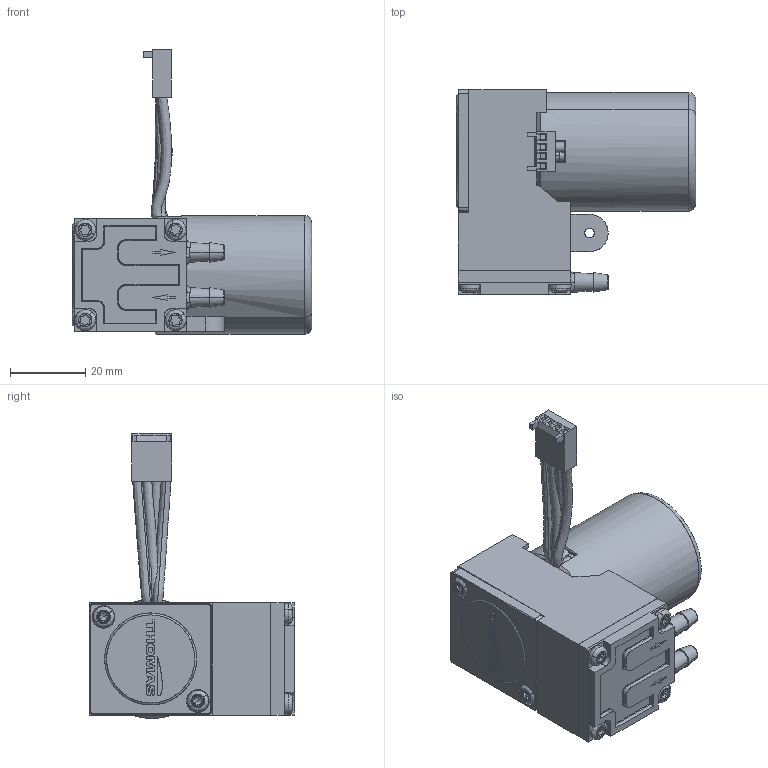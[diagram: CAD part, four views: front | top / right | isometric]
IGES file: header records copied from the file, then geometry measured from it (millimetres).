
Start section: SolidWorks IGES file using analytic representation for surfaces
Global section: file name: Q:\2016\03 Nautilus\41 Files Shell Creation\03 Fertige Hüllen\01 an Marketing übergeben\14100216\14100216-18.IGS; native system: SolidWorks 2018; preprocessor: SolidWorks 2018; author: hxs2830; date: 190924.162111; units: millimetre
Bounding box: 63.8 x 54.4 x 75.83 mm (x, y, z)
Surface area: 17871 mm2 (no closed solid volume)
Topology: 0 solids, 0 shells, 1026 faces, 9085 edges, 9081 vertices
Faces by surface type: bspline 804, revolution 222
